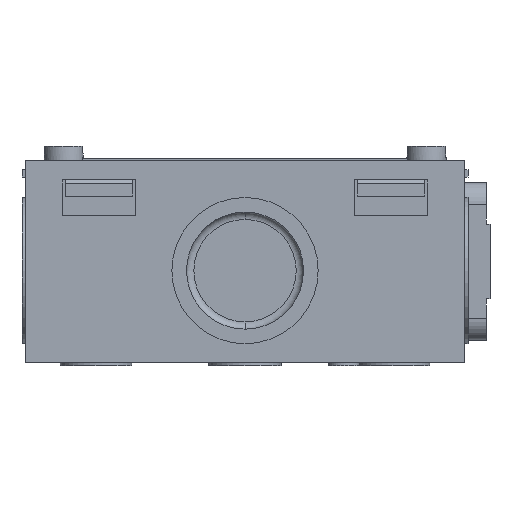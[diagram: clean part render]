
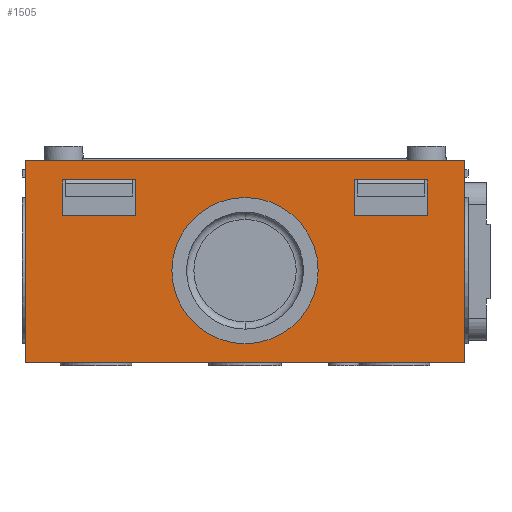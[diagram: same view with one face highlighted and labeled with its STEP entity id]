
A CAD part, front view. The second image highlights one B-rep face of the part: STEP entity #1505.
In plain terms, the highlighted planar face has unit normal (0, -1, 0).
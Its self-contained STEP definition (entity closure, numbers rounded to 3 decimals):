
#10 = VECTOR ( 'NONE', #11648, 1000. ) ;
#26 = VECTOR ( 'NONE', #11693, 1000. ) ;
#47 = AXIS2_PLACEMENT_3D ( 'NONE', #11675, #11694, #11695 ) ;
#48 = VECTOR ( 'NONE', #11660, 1000. ) ;
#419 = VECTOR ( 'NONE', #7449, 1000. ) ;
#450 = VECTOR ( 'NONE', #7524, 1000. ) ;
#777 = CIRCLE ( 'NONE', #47, 10. ) ;
#830 = EDGE_CURVE ( 'NONE', #3626, #3846, #880, .T. ) ;
#880 = CIRCLE ( 'NONE', #4349, 10. ) ;
#1131 = EDGE_CURVE ( 'NONE', #6356, #6494, #7447, .T. ) ;
#1156 = EDGE_CURVE ( 'NONE', #6110, #6115, #7522, .T. ) ;
#1322 = EDGE_CURVE ( 'NONE', #6115, #6101, #8086, .T. ) ;
#1505 = ADVANCED_FACE ( 'NONE', ( #1678, #1648, #1696, #1649 ), #8721, .F. ) ;
#1588 = EDGE_CURVE ( 'NONE', #6094, #6110, #9029, .T. ) ;
#1594 = EDGE_CURVE ( 'NONE', #6101, #6094, #9047, .T. ) ;
#1626 = VECTOR ( 'NONE', #9049, 1000. ) ;
#1648 = FACE_BOUND ( 'NONE', #10021, .T. ) ;
#1649 = FACE_BOUND ( 'NONE', #10023, .T. ) ;
#1678 = FACE_OUTER_BOUND ( 'NONE', #10026, .T. ) ;
#1696 = FACE_BOUND ( 'NONE', #10025, .T. ) ;
#1729 = AXIS2_PLACEMENT_3D ( 'NONE', #8722, #8723, #8724 ) ;
#3288 = VECTOR ( 'NONE', #9031, 1000. ) ;
#3626 = VERTEX_POINT ( 'NONE', #10718 ) ;
#3833 = VERTEX_POINT ( 'NONE', #10857 ) ;
#3846 = VERTEX_POINT ( 'NONE', #10870 ) ;
#4007 = VECTOR ( 'NONE', #11507, 1000. ) ;
#4016 = VECTOR ( 'NONE', #11519, 1000. ) ;
#4044 = VECTOR ( 'NONE', #11552, 1000. ) ;
#4054 = VECTOR ( 'NONE', #11570, 1000. ) ;
#4124 = ORIENTED_EDGE ( 'NONE', *, *, #4801, .F. ) ;
#4166 = ORIENTED_EDGE ( 'NONE', *, *, #1131, .F. ) ;
#4170 = ORIENTED_EDGE ( 'NONE', *, *, #4833, .T. ) ;
#4205 = ORIENTED_EDGE ( 'NONE', *, *, #1322, .T. ) ;
#4210 = ORIENTED_EDGE ( 'NONE', *, *, #830, .F. ) ;
#4215 = ORIENTED_EDGE ( 'NONE', *, *, #4795, .F. ) ;
#4231 = ORIENTED_EDGE ( 'NONE', *, *, #4849, .T. ) ;
#4238 = ORIENTED_EDGE ( 'NONE', *, *, #4850, .F. ) ;
#4251 = ORIENTED_EDGE ( 'NONE', *, *, #4780, .T. ) ;
#4265 = ORIENTED_EDGE ( 'NONE', *, *, #1588, .T. ) ;
#4349 = AXIS2_PLACEMENT_3D ( 'NONE', #6854, #6855, #6856 ) ;
#4780 = EDGE_CURVE ( 'NONE', #3833, #6285, #11505, .T. ) ;
#4784 = EDGE_CURVE ( 'NONE', #6362, #6481, #11517, .T. ) ;
#4795 = EDGE_CURVE ( 'NONE', #6494, #6285, #11550, .T. ) ;
#4801 = EDGE_CURVE ( 'NONE', #6445, #6362, #11568, .T. ) ;
#4833 = EDGE_CURVE ( 'NONE', #6307, #6481, #11646, .T. ) ;
#4837 = EDGE_CURVE ( 'NONE', #6445, #6307, #11658, .T. ) ;
#4849 = EDGE_CURVE ( 'NONE', #6356, #3833, #11691, .T. ) ;
#4850 = EDGE_CURVE ( 'NONE', #3846, #3626, #777, .T. ) ;
#4997 = VECTOR ( 'NONE', #8088, 1000. ) ;
#5086 = ORIENTED_EDGE ( 'NONE', *, *, #4837, .T. ) ;
#5933 = ORIENTED_EDGE ( 'NONE', *, *, #1156, .T. ) ;
#6024 = ORIENTED_EDGE ( 'NONE', *, *, #4784, .F. ) ;
#6094 = VERTEX_POINT ( 'NONE', #11786 ) ;
#6101 = VERTEX_POINT ( 'NONE', #11793 ) ;
#6110 = VERTEX_POINT ( 'NONE', #11802 ) ;
#6115 = VERTEX_POINT ( 'NONE', #11807 ) ;
#6184 = ORIENTED_EDGE ( 'NONE', *, *, #1594, .T. ) ;
#6285 = VERTEX_POINT ( 'NONE', #11847 ) ;
#6307 = VERTEX_POINT ( 'NONE', #11860 ) ;
#6356 = VERTEX_POINT ( 'NONE', #11886 ) ;
#6362 = VERTEX_POINT ( 'NONE', #11891 ) ;
#6445 = VERTEX_POINT ( 'NONE', #11946 ) ;
#6481 = VERTEX_POINT ( 'NONE', #11972 ) ;
#6494 = VERTEX_POINT ( 'NONE', #11981 ) ;
#6854 = CARTESIAN_POINT ( 'NONE',  ( 0., -85.5, -1.25 ) ) ;
#6855 = DIRECTION ( 'NONE',  ( 0., -1., 0. ) ) ;
#6856 = DIRECTION ( 'NONE',  ( 0., 0., 1. ) ) ;
#7447 = LINE ( 'NONE', #7448, #419 ) ;
#7448 = CARTESIAN_POINT ( 'NONE',  ( -24.95, -85.5, 11.15 ) ) ;
#7449 = DIRECTION ( 'NONE',  ( 0., 0., -1. ) ) ;
#7522 = LINE ( 'NONE', #7523, #450 ) ;
#7523 = CARTESIAN_POINT ( 'NONE',  ( -30., -85.5, -13.75 ) ) ;
#7524 = DIRECTION ( 'NONE',  ( 0., 0., -1. ) ) ;
#8086 = LINE ( 'NONE', #8087, #4997 ) ;
#8087 = CARTESIAN_POINT ( 'NONE',  ( -30., -85.5, -13.75 ) ) ;
#8088 = DIRECTION ( 'NONE',  ( 1., 0., 0. ) ) ;
#8721 = PLANE ( 'NONE',  #1729 ) ;
#8722 = CARTESIAN_POINT ( 'NONE',  ( 0., -85.5, 0. ) ) ;
#8723 = DIRECTION ( 'NONE',  ( 0., 1., 0. ) ) ;
#8724 = DIRECTION ( 'NONE',  ( 0., 0., 1. ) ) ;
#9029 = LINE ( 'NONE', #9030, #3288 ) ;
#9030 = CARTESIAN_POINT ( 'NONE',  ( -30., -85.5, 13.75 ) ) ;
#9031 = DIRECTION ( 'NONE',  ( -1., 0., 0. ) ) ;
#9047 = LINE ( 'NONE', #9048, #1626 ) ;
#9048 = CARTESIAN_POINT ( 'NONE',  ( 30., -85.5, -13.75 ) ) ;
#9049 = DIRECTION ( 'NONE',  ( 0., 0., 1. ) ) ;
#10021 = EDGE_LOOP ( 'NONE', ( #4124, #5086, #4170, #6024 ) ) ;
#10023 = EDGE_LOOP ( 'NONE', ( #4238, #4210 ) ) ;
#10025 = EDGE_LOOP ( 'NONE', ( #4215, #4166, #4231, #4251 ) ) ;
#10026 = EDGE_LOOP ( 'NONE', ( #6184, #4265, #5933, #4205 ) ) ;
#10718 = CARTESIAN_POINT ( 'NONE',  ( 0., -85.5, -11.25 ) ) ;
#10857 = CARTESIAN_POINT ( 'NONE',  ( -14.95, -85.5, 11.15 ) ) ;
#10870 = CARTESIAN_POINT ( 'NONE',  ( 0., -85.5, 8.75 ) ) ;
#11505 = LINE ( 'NONE', #11506, #4007 ) ;
#11506 = CARTESIAN_POINT ( 'NONE',  ( -14.95, -85.5, 11.15 ) ) ;
#11507 = DIRECTION ( 'NONE',  ( 0., 0., -1. ) ) ;
#11517 = LINE ( 'NONE', #11518, #4016 ) ;
#11518 = CARTESIAN_POINT ( 'NONE',  ( 14.95, -85.5, 11.15 ) ) ;
#11519 = DIRECTION ( 'NONE',  ( 0., 0., -1. ) ) ;
#11550 = LINE ( 'NONE', #11551, #4044 ) ;
#11551 = CARTESIAN_POINT ( 'NONE',  ( -24.95, -85.5, 6.25 ) ) ;
#11552 = DIRECTION ( 'NONE',  ( 1., 0., 0. ) ) ;
#11568 = LINE ( 'NONE', #11569, #4054 ) ;
#11569 = CARTESIAN_POINT ( 'NONE',  ( 24.95, -85.5, 11.15 ) ) ;
#11570 = DIRECTION ( 'NONE',  ( -1., 0., 0. ) ) ;
#11646 = LINE ( 'NONE', #11647, #10 ) ;
#11647 = CARTESIAN_POINT ( 'NONE',  ( 24.95, -85.5, 6.25 ) ) ;
#11648 = DIRECTION ( 'NONE',  ( -1., 0., 0. ) ) ;
#11658 = LINE ( 'NONE', #11659, #48 ) ;
#11659 = CARTESIAN_POINT ( 'NONE',  ( 24.95, -85.5, 11.15 ) ) ;
#11660 = DIRECTION ( 'NONE',  ( 0., 0., -1. ) ) ;
#11675 = CARTESIAN_POINT ( 'NONE',  ( 0., -85.5, -1.25 ) ) ;
#11691 = LINE ( 'NONE', #11692, #26 ) ;
#11692 = CARTESIAN_POINT ( 'NONE',  ( -24.95, -85.5, 11.15 ) ) ;
#11693 = DIRECTION ( 'NONE',  ( 1., 0., 0. ) ) ;
#11694 = DIRECTION ( 'NONE',  ( 0., -1., 0. ) ) ;
#11695 = DIRECTION ( 'NONE',  ( 0., 0., 1. ) ) ;
#11786 = CARTESIAN_POINT ( 'NONE',  ( 30., -85.5, 13.75 ) ) ;
#11793 = CARTESIAN_POINT ( 'NONE',  ( 30., -85.5, -13.75 ) ) ;
#11802 = CARTESIAN_POINT ( 'NONE',  ( -30., -85.5, 13.75 ) ) ;
#11807 = CARTESIAN_POINT ( 'NONE',  ( -30., -85.5, -13.75 ) ) ;
#11847 = CARTESIAN_POINT ( 'NONE',  ( -14.95, -85.5, 6.25 ) ) ;
#11860 = CARTESIAN_POINT ( 'NONE',  ( 24.95, -85.5, 6.25 ) ) ;
#11886 = CARTESIAN_POINT ( 'NONE',  ( -24.95, -85.5, 11.15 ) ) ;
#11891 = CARTESIAN_POINT ( 'NONE',  ( 14.95, -85.5, 11.15 ) ) ;
#11946 = CARTESIAN_POINT ( 'NONE',  ( 24.95, -85.5, 11.15 ) ) ;
#11972 = CARTESIAN_POINT ( 'NONE',  ( 14.95, -85.5, 6.25 ) ) ;
#11981 = CARTESIAN_POINT ( 'NONE',  ( -24.95, -85.5, 6.25 ) ) ;
